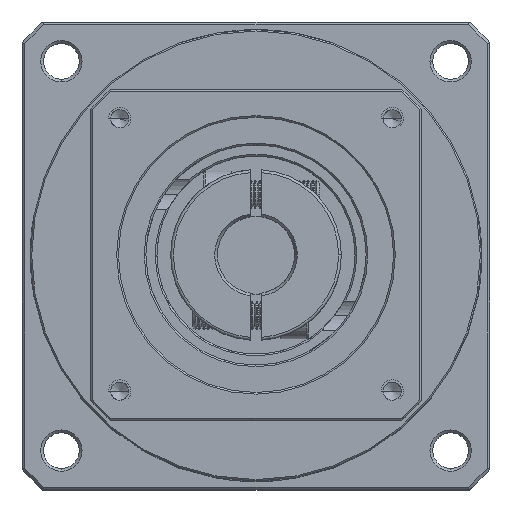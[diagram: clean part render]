
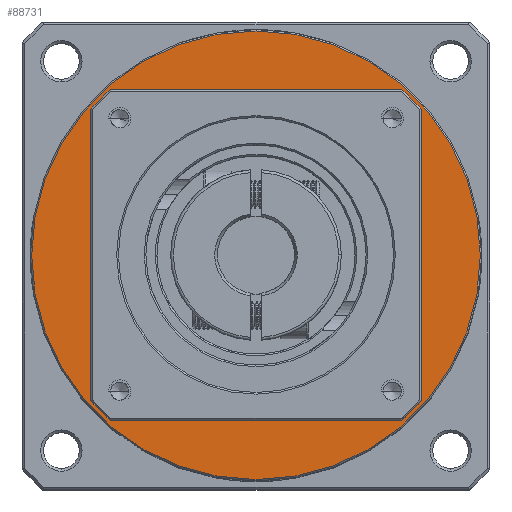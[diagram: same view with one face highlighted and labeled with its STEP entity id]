
A CAD part, top view. The second image highlights one B-rep face of the part: STEP entity #88731.
In plain terms, the highlighted planar face has unit normal (0, 0, 1).
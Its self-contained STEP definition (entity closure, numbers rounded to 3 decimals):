
#797 = AXIS2_PLACEMENT_3D ( 'NONE', #108739, #55920, #3078 ) ;
#1557 = CIRCLE ( 'NONE', #101688, 30. ) ;
#3078 = DIRECTION ( 'NONE',  ( 1., 0., 0. ) ) ;
#6798 = DIRECTION ( 'NONE',  ( 0., 0., -1. ) ) ;
#8028 = CARTESIAN_POINT ( 'NONE',  ( -102.877, 18.452, -15.806 ) ) ;
#19357 = FACE_BOUND ( 'NONE', #99890, .T. ) ;
#22537 = EDGE_CURVE ( 'NONE', #29493, #22803, #44257, .T. ) ;
#22803 = VERTEX_POINT ( 'NONE', #8028 ) ;
#28659 = CARTESIAN_POINT ( 'NONE',  ( -62.127, 18.452, -15.806 ) ) ;
#29493 = VERTEX_POINT ( 'NONE', #40552 ) ;
#30422 = CIRCLE ( 'NONE', #81059, 40.75 ) ;
#30732 = CARTESIAN_POINT ( 'NONE',  ( -32.127, 18.452, -15.806 ) ) ;
#30811 = EDGE_LOOP ( 'NONE', ( #101587, #106312 ) ) ;
#37513 = DIRECTION ( 'NONE',  ( -1., 0., 0. ) ) ;
#40011 = DIRECTION ( 'NONE',  ( 0., 0., -1. ) ) ;
#40552 = CARTESIAN_POINT ( 'NONE',  ( -21.377, 18.452, -15.806 ) ) ;
#44257 = CIRCLE ( 'NONE', #109719, 40.75 ) ;
#48819 = CARTESIAN_POINT ( 'NONE',  ( -62.127, 18.452, -15.806 ) ) ;
#50083 = EDGE_CURVE ( 'NONE', #22803, #29493, #30422, .T. ) ;
#50530 = CARTESIAN_POINT ( 'NONE',  ( -92.127, 18.452, -15.806 ) ) ;
#52629 = ORIENTED_EDGE ( 'NONE', *, *, #78551, .T. ) ;
#55920 = DIRECTION ( 'NONE',  ( 0., 0., 1. ) ) ;
#57111 = VERTEX_POINT ( 'NONE', #30732 ) ;
#57761 = DIRECTION ( 'NONE',  ( -1., 0., 0. ) ) ;
#59611 = CARTESIAN_POINT ( 'NONE',  ( -62.127, 18.452, -15.806 ) ) ;
#63540 = FACE_OUTER_BOUND ( 'NONE', #30811, .T. ) ;
#64484 = AXIS2_PLACEMENT_3D ( 'NONE', #59611, #6798, #68514 ) ;
#68514 = DIRECTION ( 'NONE',  ( -1., 0., 0. ) ) ;
#73297 = PLANE ( 'NONE',  #797 ) ;
#78551 = EDGE_CURVE ( 'NONE', #86729, #57111, #1557, .T. ) ;
#81059 = AXIS2_PLACEMENT_3D ( 'NONE', #28659, #90506, #37513 ) ;
#86729 = VERTEX_POINT ( 'NONE', #50530 ) ;
#88731 = ADVANCED_FACE ( 'NONE', ( #63540, #19357 ), #73297, .T. ) ;
#90506 = DIRECTION ( 'NONE',  ( 0., 0., -1. ) ) ;
#92957 = CARTESIAN_POINT ( 'NONE',  ( -62.127, 18.452, -15.806 ) ) ;
#93922 = ORIENTED_EDGE ( 'NONE', *, *, #112130, .T. ) ;
#99762 = CIRCLE ( 'NONE', #64484, 30. ) ;
#99890 = EDGE_LOOP ( 'NONE', ( #52629, #93922 ) ) ;
#101587 = ORIENTED_EDGE ( 'NONE', *, *, #50083, .F. ) ;
#101688 = AXIS2_PLACEMENT_3D ( 'NONE', #92957, #40011, #101831 ) ;
#101831 = DIRECTION ( 'NONE',  ( -1., 0., 0. ) ) ;
#106312 = ORIENTED_EDGE ( 'NONE', *, *, #22537, .F. ) ;
#108739 = CARTESIAN_POINT ( 'NONE',  ( -62.127, 18.452, -15.806 ) ) ;
#109719 = AXIS2_PLACEMENT_3D ( 'NONE', #48819, #110587, #57761 ) ;
#110587 = DIRECTION ( 'NONE',  ( 0., 0., -1. ) ) ;
#112130 = EDGE_CURVE ( 'NONE', #57111, #86729, #99762, .T. ) ;
